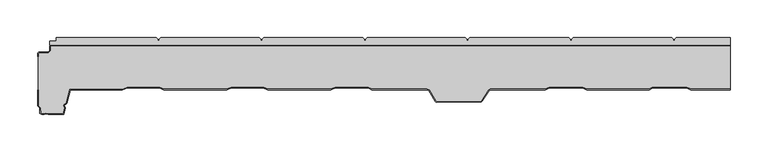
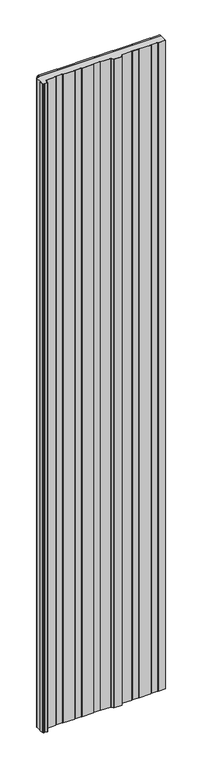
"""IFC4 building model written with IfcOpenShell, lengths in millimetres: plate geometry, Paneles-Sándwich-Madera_PAPUR-AC_Curtain-Panel : PAPUR AC 60/10."""

from ifc_helpers import new_model, si_unit, origin, origin_with_axes, place, context, project, spatial, polyline, outline, extrude, source, transform, mapped, element, save


def plate_6784a85b(model_context):
    return source(origin(), model_context, "Body", "SweptSolid", [
        extrude(outline(polyline([(-304.8923076, 8.0070037), (-302.9037044, 10.0073737), (-172.8159298, 10.0073737), (-170.8198896, 8.0070037), (-170.8198896, 6.0196231), (-168.8151898, 6.0196231), (-168.8151898, 8.0070037), (-166.8234794, 10.0073737), (-36.0114048, 10.0073737), (-34.028354, 8.0070037), (-34.028354, 6.0196231), (-32.0236542, 6.0196231), (-32.0236542, 8.0070037), (-30.027614, 10.0073737), (99.3209865, 10.0073737), (101.3083671, 8.0070037), (101.3083671, 6.0196231), (103.3044073, 6.0196231), (103.3044073, 8.0070037), (105.3047773, 10.0073737), (236.7230247, 10.0073737), (238.7147351, 8.0070037), (238.7147351, 6.0196231), (240.7107753, 6.0196231), (240.7107753, 8.0070037), (242.7111453, 10.0073737), (372.9386962, 10.0073737), (374.9390662, 8.0070037), (374.9390662, 6.0196231), (376.9351064, 6.0196231), (376.9351064, 8.0070037), (378.9311466, 10.0073737), (450.0, 10.0073737), (450.0, 0.0), (-449.601171, 0.0), (-449.601171, 5.5984381), (-441.266524, 5.5984381), (-441.266524, 10.0073737), (-308.8887178, 10.0073737), (-306.8926776, 8.0070037), (-306.8926776, 6.0196231), (-304.8923076, 6.0196231), (-304.8923076, 8.0070037)])), origin_with_axes(), (0.0, 0.0, 1.0), 5000.0),
        extrude(outline(polyline([(-465.6618356, -10.4348305), (-464.1420739, -9.1055803), (-452.1008857, -8.9930054), (-449.9316533, -7.001295), (-449.9922705, -1.1690474), (-448.9531173, 0.0), (450.0, 0.0), (450.0, -0.8), (-448.5938644, -0.8), (-449.1891031, -1.4696435), (-449.1279914, -7.3494661), (-451.7861577, -9.7900979), (-463.8383716, -9.9027759), (-464.8585217, -10.795044), (-464.8185043, -15.1889566), (-465.6185375, -15.1889566), (-465.6618356, -10.4348305)])), origin_with_axes(), (0.0, 0.0, 1.0), 5000.0),
        extrude(outline(polyline([(260.2961713, -59.080732), (255.0700964, -56.8595419), (210.914743, -56.8595419), (205.4418692, -59.080732), (132.9522706, -59.080732), (131.4498282, -60.0159699), (122.1450768, -74.1874223), (121.0669553, -75.2871929), (61.5970809, -75.7721311), (59.7092859, -74.4602001), (51.1406014, -60.2974073), (48.4301433, -59.080732), (-24.2066687, -59.080732), (-28.6057508, -56.8595419), (-72.432039, -56.8595419), (-78.2426376, -59.080732), (-161.7689096, -59.080732), (-167.3283795, -56.8595419), (-209.6738743, -56.8595419), (-215.8568362, -59.080732), (-299.3138314, -59.080732), (-304.2931073, -56.8595419), (-347.2231259, -56.8595419), (-353.6788654, -59.5570106), (-422.9773976, -59.6955644), (-427.4977143, -77.4131272), (-428.6234636, -78.5994938), (-430.0999272, -79.3355607), (-430.4116732, -80.262139), (-429.4850948, -82.4227118), (-429.4850948, -83.6653659), (-431.6372836, -92.0045707), (-452.0433799, -92.0045707), (-454.8231149, -91.0779924), (-457.2997634, -92.0045707), (-460.7029903, -92.0045707), (-462.8635631, -90.4025428), (-462.9285102, -83.2756835), (-465.6476279, -80.6041937), (-465.6, -59.57), (-464.7999979, -59.57), (-464.8468678, -80.2694216), (-462.1315619, -82.9371664), (-462.0672248, -89.9970874), (-460.438754, -91.2045707), (-457.4445144, -91.2045707), (-454.8384953, -90.2295916), (-451.9135578, -91.2045707), (-432.2570317, -91.2045707), (-430.2850948, -83.5637976), (-430.2850948, -82.5870188), (-431.2673442, -80.2966335), (-430.7527365, -78.767105), (-429.1066634, -77.946482), (-428.2213945, -77.0135448), (-423.5992353, -58.896806), (-353.8400488, -58.7573313), (-347.3835418, -56.0595419), (-304.1227627, -56.0595419), (-299.1434867, -58.280732), (-215.9961744, -58.280732), (-209.8132126, -56.0595419), (-167.1744807, -56.0595419), (-161.6150108, -58.280732), (-78.390332, -58.280732), (-72.5797335, -56.0595419), (-28.4152363, -56.0595419), (-24.0161542, -58.280732), (48.6014618, -58.280732), (51.6958915, -59.6697651), (60.3056326, -73.9004185), (61.8448216, -74.9700843), (120.728235, -74.4899283), (121.5191698, -73.6831114), (130.8776723, -59.4297941), (132.7236193, -58.280732), (205.2857129, -58.280732), (210.7585866, -56.0595419), (255.2330509, -56.0595419), (260.4591258, -58.280732), (342.801635, -58.280732), (347.2274638, -56.0595419), (392.6117194, -56.0595419), (398.2231469, -58.280732), (450.0, -58.280732), (450.0, -59.080732), (398.0705727, -59.080732), (392.4591451, -56.8595419), (347.4169495, -56.8595419), (342.9911208, -59.080732), (260.2961713, -59.080732)])), origin_with_axes(), (0.0, 0.0, 1.0), 5000.0),
        extrude(outline(polyline([(398.2211683, -58.2761613), (392.6097408, -56.0549712), (347.2254852, -56.0549712), (342.7996564, -58.2761613), (260.4571472, -58.2761613), (255.2310723, -56.0549712), (210.756608, -56.0549712), (205.2837343, -58.2761613), (132.7216407, -58.2761613), (130.8756937, -59.4252234), (121.5171912, -73.6785406), (120.7262564, -74.4853576), (61.842843, -74.9655136), (60.303654, -73.8958478), (51.6939129, -59.6651944), (48.5994832, -58.2761613), (-24.0181328, -58.2761613), (-28.4172149, -56.0549712), (-72.5817121, -56.0549712), (-78.3923106, -58.2761613), (-161.6169894, -58.2761613), (-167.1764593, -56.0549712), (-209.8151912, -56.0549712), (-215.998153, -58.2761613), (-299.1454653, -58.2761613), (-304.1247413, -56.0549712), (-347.3855204, -56.0549712), (-353.8420274, -58.7527605), (-423.6012139, -58.8922353), (-428.2233731, -77.0089741), (-429.108642, -77.9419113), (-430.7547151, -78.7625342), (-431.2693228, -80.2920628), (-430.2870734, -82.5824481), (-430.2870734, -83.5592269), (-432.2590104, -91.2), (-451.9155364, -91.2), (-454.8404739, -90.2250208), (-457.446493, -91.2), (-460.4407326, -91.2), (-462.0692034, -89.9925166), (-462.1335405, -82.9325956), (-464.8488464, -80.2648508), (-464.8019766, -60.0), (-464.8432618, -10.795044), (-463.8231116, -9.9027759), (-451.7708977, -9.7900979), (-449.1127314, -7.3494661), (-449.1738431, -1.4696435), (-448.5786045, -0.8), (450.0, -0.8), (450.0, -58.2761613), (398.2211683, -58.2761613)])), origin_with_axes(), (0.0, 0.0, 1.0), 5000.0),
    ])


if __name__ == "__main__":
    model = new_model("IFC4")
    model_context = context("Model", 3, world=origin())
    ifc_project = project(units=[si_unit("LENGTHUNIT", "METRE", prefix="MILLI")], contexts=[model_context])
    site = spatial("IfcSite", under=ifc_project)
    building = spatial("IfcBuilding", under=site)
    placement = place(None, origin())
    plate_shape = plate_6784a85b(model_context)
    element("IfcPlate", 1, ObjectType="Paneles-Sándwich-Madera_PAPUR-AC_Curtain-Panel : PAPUR AC 60/10", at=placement, inside=building, context=model_context, shape_type="MappedRepresentation", body=[
        mapped(plate_shape, transform((0.0, 0.0, 0.0), x_axis=(1.0, 0.0, 0.0), y_axis=(0.0, 1.0, 0.0), z_axis=(0.0, 0.0, 1.0))),
    ])
    save(model, "model.ifc")
